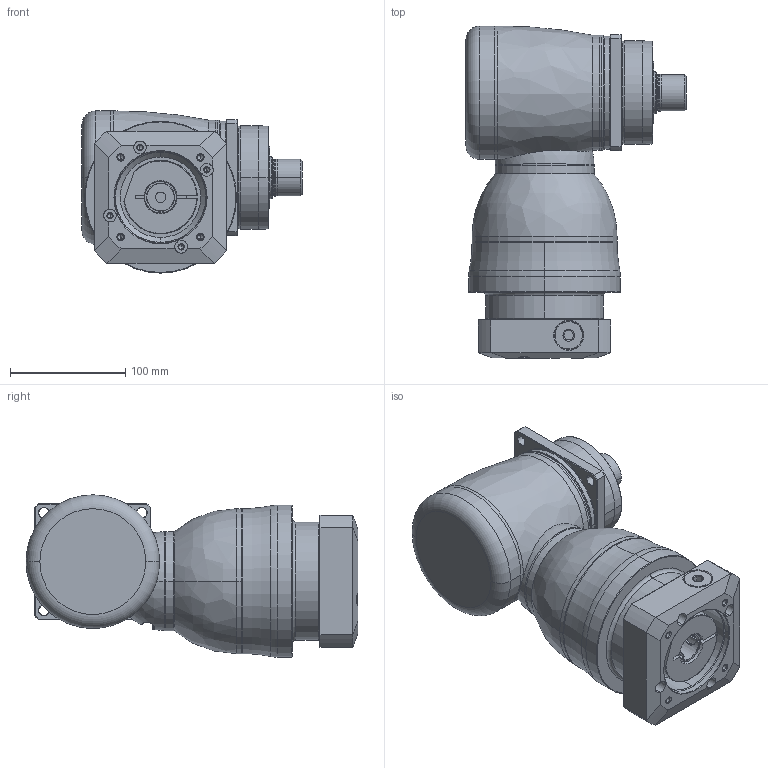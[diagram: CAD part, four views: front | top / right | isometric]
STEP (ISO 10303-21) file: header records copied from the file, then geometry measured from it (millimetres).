
FILE_DESCRIPTION((''),'2;1');
FILE_NAME('KF100_S3_2ST_24-P0409500101_ASM','2016-07-07T',('d01943'),(''),'PRO/ENGINEER BY PARAMETRIC TECHNOLOGY CORPORATION, 2008410','PRO/ENGINEER BY PARAMETRIC TECHNOLOGY CORPORATION, 2008410','');
FILE_SCHEMA(('CONFIG_CONTROL_DESIGN'));
Length unit declared in the file: millimetre
Products named in the file (11): P1008400002; P1804400001; P0915402001; P1315400001; P1007400001; P1317400201; P0409500101; P0503500010; P0912303001; 21711418017; KF100_S3_2ST_24-P0409500101_ASM
Assembly tree (10 placements, depth 2):
  KF100_S3_2ST_24-P0409500101_ASM
    P1008400002
    P1804400001
    P0915402001
    P1315400001
    P1007400001
    P1317400201
    P0409500101
    P0503500010
    P0912303001
    21711418017
Bounding box: 191.3 x 288.5 x 141 mm (x, y, z)
Volume: 3093127.3 mm3; surface area: 336229.9 mm2
Topology: 11 solids, 11 shells, 498 faces, 1122 edges, 663 vertices
Faces by surface type: cylinder 168, cone 130, plane 100, torus 64, bspline 34, sphere 2
Entity records: 19963 total; most frequent: CARTESIAN_POINT 8665, DIRECTION 2476, ORIENTED_EDGE 2204, EDGE_CURVE 1102, AXIS2_PLACEMENT_3D 1049, VERTEX_POINT 663, EDGE_LOOP 567, CIRCLE 564
